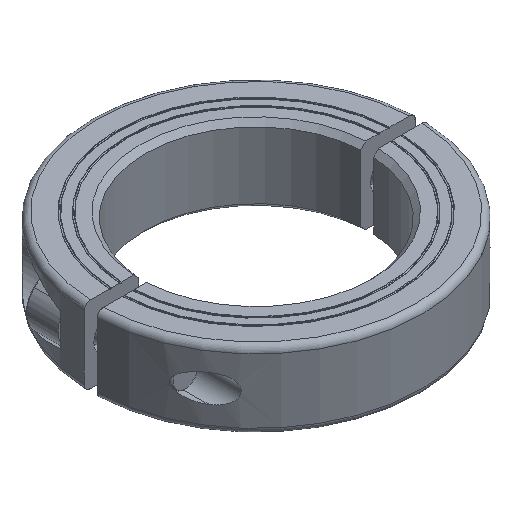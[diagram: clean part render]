
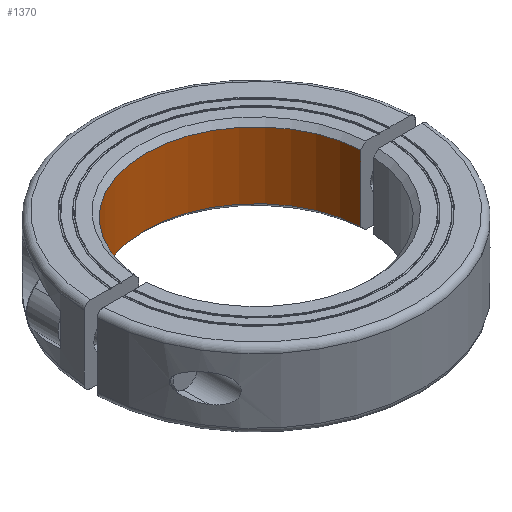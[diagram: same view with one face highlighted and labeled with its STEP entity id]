
A CAD part, isometric view. The second image highlights one B-rep face of the part: STEP entity #1370.
In plain terms, the highlighted cylindrical face has radius 27.5 mm (diameter 55 mm), a partial arc.
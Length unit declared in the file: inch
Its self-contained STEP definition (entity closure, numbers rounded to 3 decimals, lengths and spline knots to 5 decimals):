
#164=DIRECTION('',(0.,0.,-1.));
#165=VECTOR('',#164,0.648);
#166=CARTESIAN_POINT('',(1.08087,0.0625,0.69802));
#167=LINE('',#166,#165);
#253=CARTESIAN_POINT('',(0.,0.,0.69803));
#254=DIRECTION('',(0.,0.,-1.));
#255=DIRECTION('',(-0.998,0.058,0.));
#256=AXIS2_PLACEMENT_3D('',#253,#254,#255);
#258=CARTESIAN_POINT('',(0.,0.,0.05));
#259=DIRECTION('',(0.,0.,1.));
#260=DIRECTION('',(0.998,0.058,0.));
#261=AXIS2_PLACEMENT_3D('',#258,#259,#260);
#328=DIRECTION('',(0.,0.,1.));
#329=VECTOR('',#328,0.648);
#330=CARTESIAN_POINT('',(-1.08087,0.0625,
0.05001));
#331=LINE('',#330,#329);
#332=CARTESIAN_POINT('',(-1.08087,0.0625,
0.05001));
#878=CARTESIAN_POINT('',(1.08087,0.0625,0.69802));
#879=CARTESIAN_POINT('',(1.08087,0.0625,0.05001));
#880=VERTEX_POINT('',#878);
#881=VERTEX_POINT('',#879);
#911=CARTESIAN_POINT('',(-1.08087,0.0625,
0.69803));
#912=VERTEX_POINT('',#911);
#913=VERTEX_POINT('',#332);
#1357=CARTESIAN_POINT('',(0.,0.,0.69803));
#1358=DIRECTION('',(0.,0.,-1.));
#1359=DIRECTION('',(-1.,0.,0.));
#1360=AXIS2_PLACEMENT_3D('',#1357,#1358,#1359);
#1361=CYLINDRICAL_SURFACE('',#1360,1.08268);
#1363=ORIENTED_EDGE('',*,*,#1362,.T.);
#1365=ORIENTED_EDGE('',*,*,#1364,.T.);
#1366=ORIENTED_EDGE('',*,*,#1341,.T.);
#1367=ORIENTED_EDGE('',*,*,#1156,.T.);
#1368=EDGE_LOOP('',(#1363,#1365,#1366,#1367));
#1369=FACE_OUTER_BOUND('',#1368,.F.);
#257=CIRCLE('',#256,1.08268);
#262=CIRCLE('',#261,1.08268);
#1156=EDGE_CURVE('',#880,#881,#167,.T.);
#1341=EDGE_CURVE('',#912,#880,#257,.T.);
#1362=EDGE_CURVE('',#881,#913,#262,.T.);
#1364=EDGE_CURVE('',#913,#912,#331,.T.);
#1370=ADVANCED_FACE('',(#1369),#1361,.F.);
